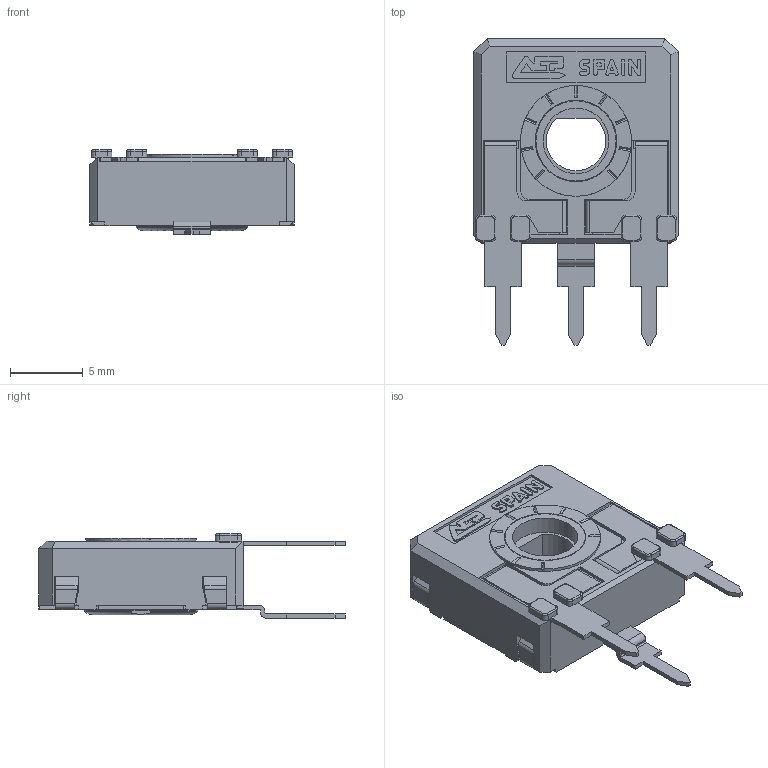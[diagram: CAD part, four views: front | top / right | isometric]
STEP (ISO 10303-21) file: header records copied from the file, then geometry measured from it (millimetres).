
FILE_DESCRIPTION(/* description */ (''),/* implementation_level */ '2;1');
FILE_NAME(/* name */ 'C:\Users\CEM\Desktop\ENVIAR\TRANSICION 3D CATALOGOS\RS14DH5.stp',/* time_stamp */ '2025-12-10T10:19:51+01:00',/* author */ ('CEM'),/* organization */ (''),/* preprocessor_version */ 'ST-DEVELOPER v16.13',/* originating_system */ 'Autodesk Inventor 2018',/* authorisation */ '');
FILE_SCHEMA (('AUTOMOTIVE_DESIGN { 1 0 10303 214 3 1 1 }'));
Length unit declared in the file: millimetre
Products named in the file (1): CARCASA CA14 PGA
Bounding box: 14 x 21 x 5.8 mm (x, y, z)
Volume: 518.7 mm3; surface area: 1435.2 mm2
Topology: 1 solids, 1 shells, 661 faces, 1857 edges, 1193 vertices
Faces by surface type: plane 490, cylinder 134, torus 23, bspline 8, cone 6
Full cylindrical faces by diameter (mm): 4.5 x1, 5.5 x1, 5.6 x1, 5.752 x1, 6.8 x1, 7.6 x1
Entity records: 21353 total; most frequent: CARTESIAN_POINT 3904, ORIENTED_EDGE 3684, DIRECTION 3474, EDGE_CURVE 1842, LINE 1462, VECTOR 1462, VERTEX_POINT 1188, AXIS2_PLACEMENT_3D 1006
